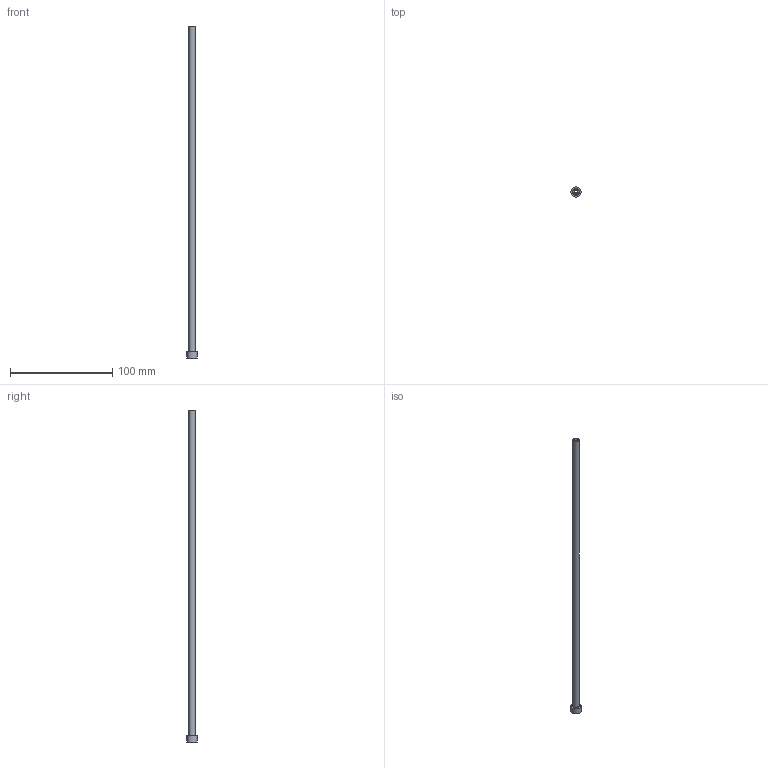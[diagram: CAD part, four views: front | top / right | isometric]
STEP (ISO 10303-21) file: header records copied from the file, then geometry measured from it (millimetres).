
FILE_DESCRIPTION (( 'STEP AP203' ), '1' );
FILE_NAME ('JES-35-6-325.STEP', '2017-06-22T18:26:44', ( '' ), ( '' ), 'SwSTEP 2.0', 'SolidWorks 2017', '' );
FILE_SCHEMA (( 'CONFIG_CONTROL_DESIGN' ));
Length unit declared in the file: millimetre
Products named in the file (1): JES-35-6-325
Bounding box: 10 x 10 x 325 mm (x, y, z)
Volume: 5745.4 mm3; surface area: 10233 mm2
Topology: 1 solids, 1 shells, 10 faces, 17 edges, 10 vertices
Faces by surface type: cylinder 4, plane 3, cone 2, torus 1
Full cylindrical faces by diameter (mm): 3.5 x1, 4 x1, 6 x1, 10 x1
Entity records: 285 total; most frequent: DIRECTION 42, CARTESIAN_POINT 31, AXIS2_PLACEMENT_3D 21, EDGE_LOOP 20, ORIENTED_EDGE 20, FACE_OUTER_BOUND 15, VERTEX_POINT 10, EDGE_CURVE 10
